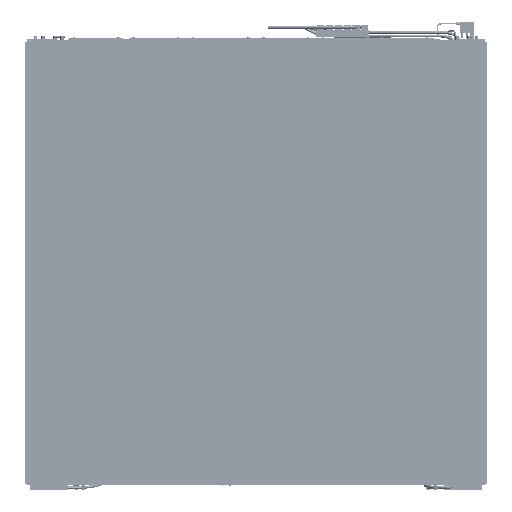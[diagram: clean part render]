
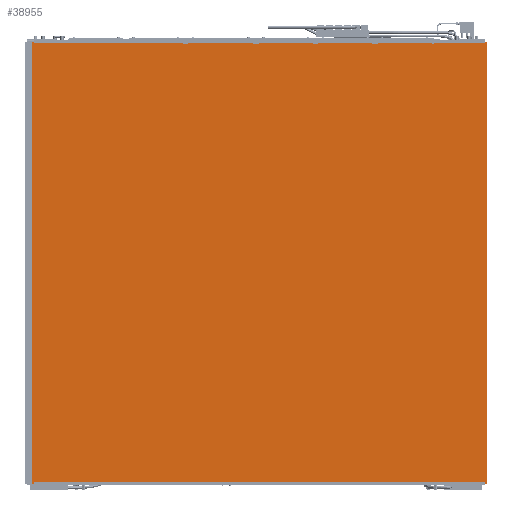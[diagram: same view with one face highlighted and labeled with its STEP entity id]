
A CAD part, front view. The second image highlights one B-rep face of the part: STEP entity #38955.
In plain terms, the highlighted planar face has unit normal (0, -1, 0).
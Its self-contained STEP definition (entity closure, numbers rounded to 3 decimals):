
#38955=ADVANCED_FACE('',(#55211),#47150,.T.);
#47150=PLANE('',#210336);
#55211=FACE_OUTER_BOUND('',#68931,.T.);
#68931=EDGE_LOOP('',(#111005,#111006,#111007,#111008));
#111005=ORIENTED_EDGE('',*,*,#159010,.F.);
#111006=ORIENTED_EDGE('',*,*,#159011,.F.);
#111007=ORIENTED_EDGE('',*,*,#159012,.F.);
#111008=ORIENTED_EDGE('',*,*,#159013,.F.);
#135841=VERTEX_POINT('',#328417);
#135842=VERTEX_POINT('',#328418);
#135843=VERTEX_POINT('',#328420);
#135844=VERTEX_POINT('',#328422);
#159010=EDGE_CURVE('',#135841,#135842,#176822,.T.);
#159011=EDGE_CURVE('',#135843,#135841,#176823,.T.);
#159012=EDGE_CURVE('',#135844,#135843,#176824,.T.);
#159013=EDGE_CURVE('',#135842,#135844,#176825,.T.);
#176822=LINE('',#328416,#191994);
#176823=LINE('',#328419,#191995);
#176824=LINE('',#328421,#191996);
#176825=LINE('',#328423,#191997);
#191994=VECTOR('',#253258,1.);
#191995=VECTOR('',#253259,1.);
#191996=VECTOR('',#253260,1.);
#191997=VECTOR('',#253261,1.);
#210336=AXIS2_PLACEMENT_3D('',#328424,#253262,#253263);
#253258=DIRECTION('',(-1.,0.,0.));
#253259=DIRECTION('',(0.,0.,-1.));
#253260=DIRECTION('',(1.,0.,0.));
#253261=DIRECTION('',(0.,0.,1.));
#253262=DIRECTION('',(0.,-1.,0.));
#253263=DIRECTION('',(1.,0.,0.));
#328416=CARTESIAN_POINT('',(1388.7,-7364.3,4085.5));
#328417=CARTESIAN_POINT('',(2673.7,-7364.3,4085.5));
#328418=CARTESIAN_POINT('',(103.7,-7364.3,4085.5));
#328419=CARTESIAN_POINT('',(2673.7,-7364.3,5333.5));
#328420=CARTESIAN_POINT('',(2673.7,-7364.3,6581.5));
#328421=CARTESIAN_POINT('',(1388.7,-7364.3,6581.5));
#328422=CARTESIAN_POINT('',(103.7,-7364.3,6581.5));
#328423=CARTESIAN_POINT('',(103.7,-7364.3,5333.5));
#328424=CARTESIAN_POINT('',(103.7,-7364.3,4085.5));
